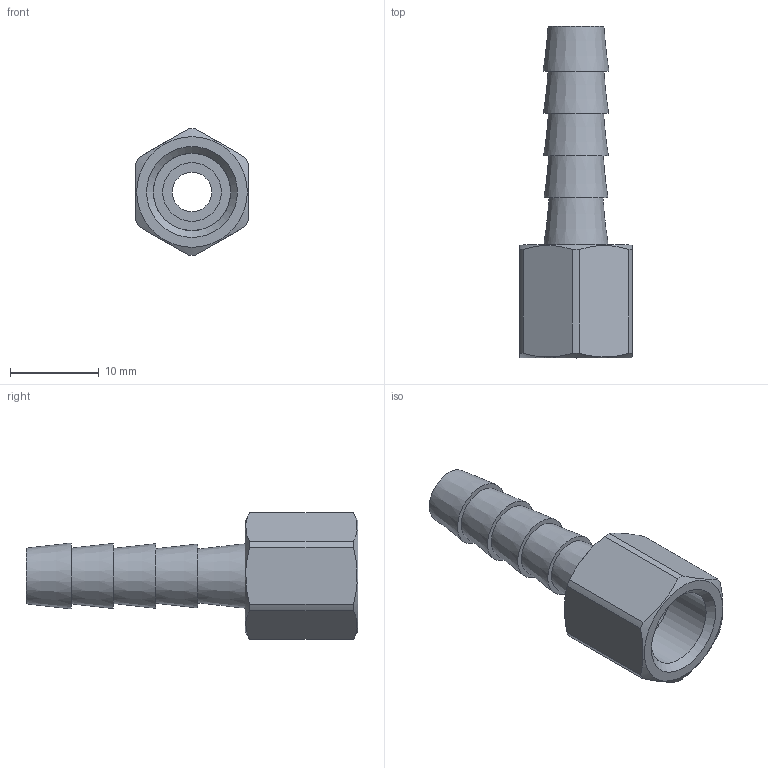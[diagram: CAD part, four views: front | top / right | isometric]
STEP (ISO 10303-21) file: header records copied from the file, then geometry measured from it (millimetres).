
FILE_DESCRIPTION(/* description */ (''),/* implementation_level */ '2;1');
FILE_NAME(/* name */ 'C:/Users/drich/Desktop/FB14-2 v1.step',/* time_stamp */ '2020-02-09T10:47:49-06:00',/* author */ (''),/* organization */ (''),/* preprocessor_version */ 'ST-DEVELOPER v18',/* originating_system */ 'Autodesk Translation Framework v8.12.0.6',/* authorisation */ '');
FILE_SCHEMA (('AUTOMOTIVE_DESIGN { 1 0 10303 214 3 1 1 }'));
Length unit declared in the file: inch
Products named in the file (2): FB14-2; 14 BARB ONLY
Assembly tree (1 placements, depth 2):
  FB14-2
    14 BARB ONLY
Bounding box: 12.7 x 37.34 x 14.22 mm (x, y, z)
Volume: 1576.7 mm3; surface area: 2014 mm2
Topology: 2 solids, 2 shells, 35 faces, 92 edges, 66 vertices
Faces by surface type: plane 15, cone 10, cylinder 10
Full cylindrical faces by diameter (mm): 4.445 x1, 6.604 x1, 8.661 x1, 8.712 x1
Entity records: 1191 total; most frequent: CARTESIAN_POINT 220, DIRECTION 210, ORIENTED_EDGE 184, EDGE_CURVE 92, AXIS2_PLACEMENT_3D 92, VERTEX_POINT 66, CIRCLE 54, EDGE_LOOP 44
